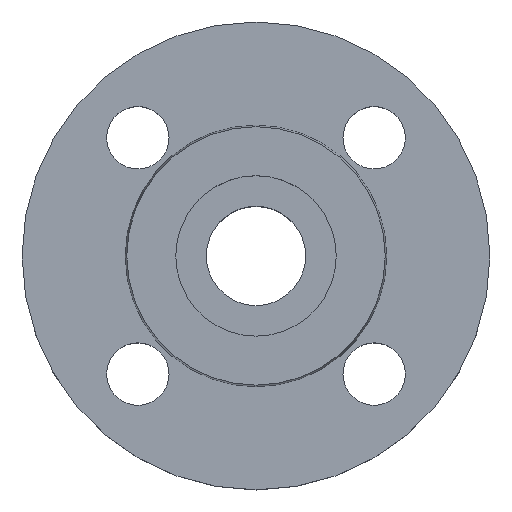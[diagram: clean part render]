
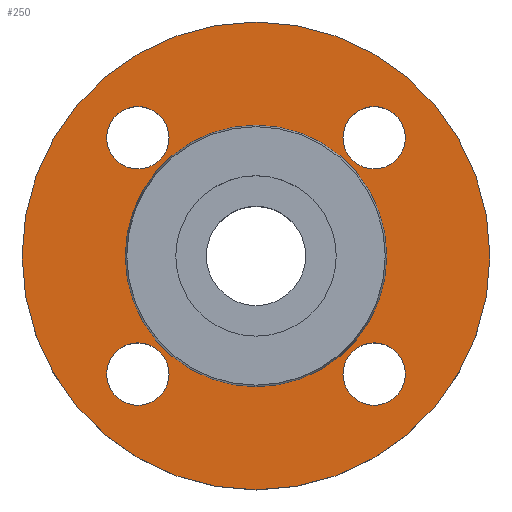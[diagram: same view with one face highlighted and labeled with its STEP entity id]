
A CAD part, top view. The second image highlights one B-rep face of the part: STEP entity #250.
In plain terms, the highlighted planar face has unit normal (0, 0, 1).
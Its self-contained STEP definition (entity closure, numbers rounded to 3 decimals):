
#34 = VERTEX_POINT ( 'NONE', #371 ) ;
#50 = CARTESIAN_POINT ( 'NONE',  ( -19.517, -26.517, -2. ) ) ;
#58 = DIRECTION ( 'NONE',  ( 0., 0., -1. ) ) ;
#65 = CARTESIAN_POINT ( 'NONE',  ( 29.353, 0., -2. ) ) ;
#71 = CIRCLE ( 'NONE', #690, 7. ) ;
#90 = CARTESIAN_POINT ( 'NONE',  ( 33.517, 26.517, -2. ) ) ;
#95 = CIRCLE ( 'NONE', #97, 29.353 ) ;
#97 = AXIS2_PLACEMENT_3D ( 'NONE', #772, #771, #770 ) ;
#102 = DIRECTION ( 'NONE',  ( -1., 0., 0. ) ) ;
#108 = CARTESIAN_POINT ( 'NONE',  ( 52.5, 0., -2. ) ) ;
#110 = AXIS2_PLACEMENT_3D ( 'NONE', #785, #786, #790 ) ;
#111 = CIRCLE ( 'NONE', #114, 52.5 ) ;
#114 = AXIS2_PLACEMENT_3D ( 'NONE', #796, #794, #798 ) ;
#134 = DIRECTION ( 'NONE',  ( 0., 0., -1. ) ) ;
#167 = CARTESIAN_POINT ( 'NONE',  ( -26.517, -26.517, -2. ) ) ;
#169 = DIRECTION ( 'NONE',  ( 0., 0., -1. ) ) ;
#170 = DIRECTION ( 'NONE',  ( 1., 0., 0. ) ) ;
#179 = CARTESIAN_POINT ( 'NONE',  ( -26.517, 26.517, -2. ) ) ;
#185 = DIRECTION ( 'NONE',  ( 1., 0., 0. ) ) ;
#186 = DIRECTION ( 'NONE',  ( 0., 0., -1. ) ) ;
#187 = CARTESIAN_POINT ( 'NONE',  ( 26.517, -26.517, -2. ) ) ;
#199 = AXIS2_PLACEMENT_3D ( 'NONE', #187, #186, #185 ) ;
#215 = DIRECTION ( 'NONE',  ( 0., 0., -1. ) ) ;
#216 = DIRECTION ( 'NONE',  ( 1., 0., 0. ) ) ;
#237 = CIRCLE ( 'NONE', #243, 7. ) ;
#242 = EDGE_CURVE ( 'NONE', #584, #357, #95, .T. ) ;
#243 = AXIS2_PLACEMENT_3D ( 'NONE', #167, #169, #170 ) ;
#250 = ADVANCED_FACE ( 'NONE', ( #775, #774, #777, #779, #780, #781 ), #782, .T. ) ;
#251 = CIRCLE ( 'NONE', #254, 7. ) ;
#252 = CIRCLE ( 'NONE', #778, 52.5 ) ;
#254 = AXIS2_PLACEMENT_3D ( 'NONE', #179, #215, #216 ) ;
#256 = CARTESIAN_POINT ( 'NONE',  ( 26.517, 26.517, -2. ) ) ;
#265 = VERTEX_POINT ( 'NONE', #787 ) ;
#271 = EDGE_LOOP ( 'NONE', ( #683, #684 ) ) ;
#276 = CIRCLE ( 'NONE', #278, 7. ) ;
#278 = AXIS2_PLACEMENT_3D ( 'NONE', #256, #284, #285 ) ;
#284 = DIRECTION ( 'NONE',  ( 0., 0., -1. ) ) ;
#285 = DIRECTION ( 'NONE',  ( 1., 0., 0. ) ) ;
#289 = EDGE_CURVE ( 'NONE', #362, #687, #111, .T. ) ;
#295 = VERTEX_POINT ( 'NONE', #806 ) ;
#304 = EDGE_LOOP ( 'NONE', ( #697, #698 ) ) ;
#311 = VERTEX_POINT ( 'NONE', #817 ) ;
#312 = CIRCLE ( 'NONE', #314, 7. ) ;
#314 = AXIS2_PLACEMENT_3D ( 'NONE', #548, #886, #887 ) ;
#315 = VERTEX_POINT ( 'NONE', #816 ) ;
#323 = CIRCLE ( 'NONE', #324, 29.353 ) ;
#324 = AXIS2_PLACEMENT_3D ( 'NONE', #901, #899, #897 ) ;
#357 = VERTEX_POINT ( 'NONE', #826 ) ;
#360 = EDGE_LOOP ( 'NONE', ( #695, #696 ) ) ;
#362 = VERTEX_POINT ( 'NONE', #108 ) ;
#371 = CARTESIAN_POINT ( 'NONE',  ( 19.517, -26.517, -2. ) ) ;
#384 = CARTESIAN_POINT ( 'NONE',  ( 26.517, -26.517, -2. ) ) ;
#400 = CARTESIAN_POINT ( 'NONE',  ( 0., 0., -2. ) ) ;
#401 = CIRCLE ( 'NONE', #470, 7. ) ;
#439 = EDGE_CURVE ( 'NONE', #265, #610, #237, .T. ) ;
#450 = EDGE_CURVE ( 'NONE', #315, #295, #251, .T. ) ;
#455 = EDGE_CURVE ( 'NONE', #645, #604, #276, .T. ) ;
#470 = AXIS2_PLACEMENT_3D ( 'NONE', #483, #481, #480 ) ;
#477 = EDGE_CURVE ( 'NONE', #295, #315, #312, .T. ) ;
#480 = DIRECTION ( 'NONE',  ( 1., 0., 0. ) ) ;
#481 = DIRECTION ( 'NONE',  ( 0., 0., -1. ) ) ;
#483 = CARTESIAN_POINT ( 'NONE',  ( 26.517, 26.517, -2. ) ) ;
#500 = CARTESIAN_POINT ( 'NONE',  ( -52.5, 0., -2. ) ) ;
#539 = CARTESIAN_POINT ( 'NONE',  ( 19.517, 26.517, -2. ) ) ;
#541 = EDGE_CURVE ( 'NONE', #357, #584, #323, .T. ) ;
#548 = CARTESIAN_POINT ( 'NONE',  ( -26.517, 26.517, -2. ) ) ;
#551 = EDGE_LOOP ( 'NONE', ( #688, #691 ) ) ;
#552 = EDGE_LOOP ( 'NONE', ( #693, #694 ) ) ;
#584 = VERTEX_POINT ( 'NONE', #65 ) ;
#594 = DIRECTION ( 'NONE',  ( 1., 0., 0. ) ) ;
#604 = VERTEX_POINT ( 'NONE', #90 ) ;
#610 = VERTEX_POINT ( 'NONE', #50 ) ;
#616 = CIRCLE ( 'NONE', #199, 7. ) ;
#632 = EDGE_LOOP ( 'NONE', ( #685, #686 ) ) ;
#645 = VERTEX_POINT ( 'NONE', #539 ) ;
#655 = AXIS2_PLACEMENT_3D ( 'NONE', #873, #800, #795 ) ;
#683 = ORIENTED_EDGE ( 'NONE', *, *, #880, .T. ) ;
#684 = ORIENTED_EDGE ( 'NONE', *, *, #788, .T. ) ;
#685 = ORIENTED_EDGE ( 'NONE', *, *, #822, .T. ) ;
#686 = ORIENTED_EDGE ( 'NONE', *, *, #439, .T. ) ;
#687 = VERTEX_POINT ( 'NONE', #500 ) ;
#688 = ORIENTED_EDGE ( 'NONE', *, *, #477, .T. ) ;
#691 = ORIENTED_EDGE ( 'NONE', *, *, #450, .T. ) ;
#690 = AXIS2_PLACEMENT_3D ( 'NONE', #384, #58, #594 ) ;
#693 = ORIENTED_EDGE ( 'NONE', *, *, #723, .T. ) ;
#694 = ORIENTED_EDGE ( 'NONE', *, *, #455, .T. ) ;
#695 = ORIENTED_EDGE ( 'NONE', *, *, #541, .T. ) ;
#696 = ORIENTED_EDGE ( 'NONE', *, *, #242, .T. ) ;
#697 = ORIENTED_EDGE ( 'NONE', *, *, #289, .F. ) ;
#698 = ORIENTED_EDGE ( 'NONE', *, *, #846, .F. ) ;
#723 = EDGE_CURVE ( 'NONE', #604, #645, #401, .T. ) ;
#770 = DIRECTION ( 'NONE',  ( -1., 0., 0. ) ) ;
#771 = DIRECTION ( 'NONE',  ( 0., 0., -1. ) ) ;
#772 = CARTESIAN_POINT ( 'NONE',  ( 0., 0., -2. ) ) ;
#774 = FACE_BOUND ( 'NONE', #632, .T. ) ;
#775 = FACE_BOUND ( 'NONE', #271, .T. ) ;
#777 = FACE_BOUND ( 'NONE', #551, .T. ) ;
#778 = AXIS2_PLACEMENT_3D ( 'NONE', #400, #134, #102 ) ;
#779 = FACE_BOUND ( 'NONE', #552, .T. ) ;
#780 = FACE_BOUND ( 'NONE', #360, .T. ) ;
#781 = FACE_OUTER_BOUND ( 'NONE', #304, .T. ) ;
#782 = PLANE ( 'NONE',  #110 ) ;
#785 = CARTESIAN_POINT ( 'NONE',  ( 29.353, 0., -2. ) ) ;
#786 = DIRECTION ( 'NONE',  ( 0., 0., 1. ) ) ;
#787 = CARTESIAN_POINT ( 'NONE',  ( -33.517, -26.517, -2. ) ) ;
#788 = EDGE_CURVE ( 'NONE', #34, #311, #616, .T. ) ;
#790 = DIRECTION ( 'NONE',  ( 1., 0., 0. ) ) ;
#794 = DIRECTION ( 'NONE',  ( 0., 0., -1. ) ) ;
#795 = DIRECTION ( 'NONE',  ( 1., 0., 0. ) ) ;
#796 = CARTESIAN_POINT ( 'NONE',  ( 0., 0., -2. ) ) ;
#798 = DIRECTION ( 'NONE',  ( -1., 0., 0. ) ) ;
#800 = DIRECTION ( 'NONE',  ( 0., 0., -1. ) ) ;
#806 = CARTESIAN_POINT ( 'NONE',  ( -19.517, 26.517, -2. ) ) ;
#816 = CARTESIAN_POINT ( 'NONE',  ( -33.517, 26.517, -2. ) ) ;
#817 = CARTESIAN_POINT ( 'NONE',  ( 33.517, -26.517, -2. ) ) ;
#822 = EDGE_CURVE ( 'NONE', #610, #265, #904, .T. ) ;
#826 = CARTESIAN_POINT ( 'NONE',  ( -29.353, 0., -2. ) ) ;
#846 = EDGE_CURVE ( 'NONE', #687, #362, #252, .T. ) ;
#873 = CARTESIAN_POINT ( 'NONE',  ( -26.517, -26.517, -2. ) ) ;
#880 = EDGE_CURVE ( 'NONE', #311, #34, #71, .T. ) ;
#886 = DIRECTION ( 'NONE',  ( 0., 0., -1. ) ) ;
#887 = DIRECTION ( 'NONE',  ( 1., 0., 0. ) ) ;
#897 = DIRECTION ( 'NONE',  ( -1., 0., 0. ) ) ;
#899 = DIRECTION ( 'NONE',  ( 0., 0., -1. ) ) ;
#901 = CARTESIAN_POINT ( 'NONE',  ( 0., 0., -2. ) ) ;
#904 = CIRCLE ( 'NONE', #655, 7. ) ;
